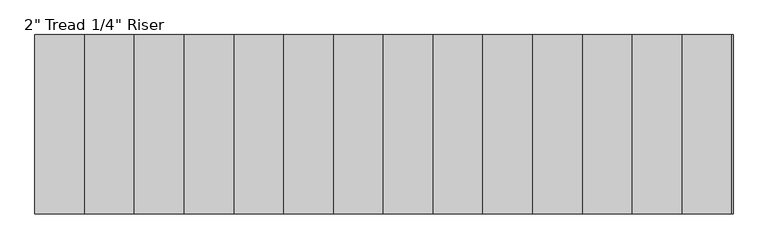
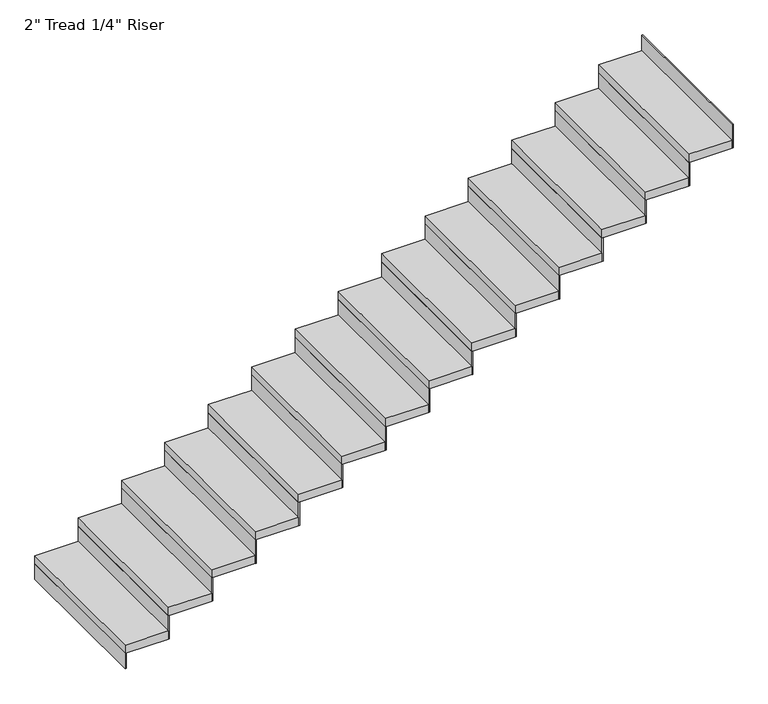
"""IFC4 building model written with IfcOpenShell, lengths in millimetres: stair flight geometry."""

from ifc_helpers import new_model, si_unit, frame, origin, origin_with_axes, place, context, project, spatial, polyline, outline, extrude, source, transform, mapped, element, save


def stair_flight_3032ab9d(model_context):
    return source(origin(), model_context, "Body", "SweptSolid", [
        extrude(outline(polyline([(157852.476153, 32314.0539886), (157846.126153, 32314.0539886), (157846.126153, 33228.4539886), (157852.476153, 33228.4539886), (157852.476153, 32314.0539886)])), origin_with_axes(), (0.0, 0.0, 1.0), 94.3428571),
        extrude(outline(polyline([(158100.126153, 33228.4539886), (158100.126153, 32314.0539886), (157846.126153, 32314.0539886), (157846.126153, 33228.4539886), (158100.126153, 33228.4539886)])), frame((0.0, 0.0, 94.3428571), z_axis=(0.0, 0.0, 1.0), x_axis=(1.0, 0.0, 0.0)), (0.0, 0.0, 1.0), 50.8),
        extrude(outline(polyline([(158106.476153, 32314.0539886), (158100.126153, 32314.0539886), (158100.126153, 33228.4539886), (158106.476153, 33228.4539886), (158106.476153, 32314.0539886)])), frame((0.0, 0.0, 94.3428571), z_axis=(0.0, 0.0, 1.0), x_axis=(1.0, 0.0, 0.0)), (0.0, 0.0, 1.0), 145.1428571),
        extrude(outline(polyline([(158354.126153, 33228.4539886), (158354.126153, 32314.0539886), (158100.126153, 32314.0539886), (158100.126153, 33228.4539886), (158354.126153, 33228.4539886)])), frame((0.0, 0.0, 239.4857143), z_axis=(0.0, 0.0, 1.0), x_axis=(1.0, 0.0, 0.0)), (0.0, 0.0, 1.0), 50.8),
        extrude(outline(polyline([(158360.476153, 32314.0539886), (158354.126153, 32314.0539886), (158354.126153, 33228.4539886), (158360.476153, 33228.4539886), (158360.476153, 32314.0539886)])), frame((0.0, 0.0, 239.4857143), z_axis=(0.0, 0.0, 1.0), x_axis=(1.0, 0.0, 0.0)), (0.0, 0.0, 1.0), 145.1428571),
        extrude(outline(polyline([(158608.126153, 33228.4539886), (158608.126153, 32314.0539886), (158354.126153, 32314.0539886), (158354.126153, 33228.4539886), (158608.126153, 33228.4539886)])), frame((0.0, 0.0, 384.6285714), z_axis=(0.0, 0.0, 1.0), x_axis=(1.0, 0.0, 0.0)), (0.0, 0.0, 1.0), 50.8),
        extrude(outline(polyline([(158614.476153, 32314.0539886), (158608.126153, 32314.0539886), (158608.126153, 33228.4539886), (158614.476153, 33228.4539886), (158614.476153, 32314.0539886)])), frame((0.0, 0.0, 384.6285714), z_axis=(0.0, 0.0, 1.0), x_axis=(1.0, 0.0, 0.0)), (0.0, 0.0, 1.0), 145.1428571),
        extrude(outline(polyline([(158862.126153, 33228.4539886), (158862.126153, 32314.0539886), (158608.126153, 32314.0539886), (158608.126153, 33228.4539886), (158862.126153, 33228.4539886)])), frame((0.0, 0.0, 529.7714286), z_axis=(0.0, 0.0, 1.0), x_axis=(1.0, 0.0, 0.0)), (0.0, 0.0, 1.0), 50.8),
        extrude(outline(polyline([(158868.476153, 32314.0539886), (158862.126153, 32314.0539886), (158862.126153, 33228.4539886), (158868.476153, 33228.4539886), (158868.476153, 32314.0539886)])), frame((0.0, 0.0, 529.7714286), z_axis=(0.0, 0.0, 1.0), x_axis=(1.0, 0.0, 0.0)), (0.0, 0.0, 1.0), 145.1428571),
        extrude(outline(polyline([(159116.126153, 33228.4539886), (159116.126153, 32314.0539886), (158862.126153, 32314.0539886), (158862.126153, 33228.4539886), (159116.126153, 33228.4539886)])), frame((0.0, 0.0, 674.9142857), z_axis=(0.0, 0.0, 1.0), x_axis=(1.0, 0.0, 0.0)), (0.0, 0.0, 1.0), 50.8),
        extrude(outline(polyline([(159122.476153, 32314.0539886), (159116.126153, 32314.0539886), (159116.126153, 33228.4539886), (159122.476153, 33228.4539886), (159122.476153, 32314.0539886)])), frame((0.0, 0.0, 674.9142857), z_axis=(0.0, 0.0, 1.0), x_axis=(1.0, 0.0, 0.0)), (0.0, 0.0, 1.0), 145.1428571),
        extrude(outline(polyline([(159370.126153, 33228.4539886), (159370.126153, 32314.0539886), (159116.126153, 32314.0539886), (159116.126153, 33228.4539886), (159370.126153, 33228.4539886)])), frame((0.0, 0.0, 820.0571429), z_axis=(0.0, 0.0, 1.0), x_axis=(1.0, 0.0, 0.0)), (0.0, 0.0, 1.0), 50.8),
        extrude(outline(polyline([(159376.476153, 32314.0539886), (159370.126153, 32314.0539886), (159370.126153, 33228.4539886), (159376.476153, 33228.4539886), (159376.476153, 32314.0539886)])), frame((0.0, 0.0, 820.0571429), z_axis=(0.0, 0.0, 1.0), x_axis=(1.0, 0.0, 0.0)), (0.0, 0.0, 1.0), 145.1428571),
        extrude(outline(polyline([(159624.126153, 33228.4539886), (159624.126153, 32314.0539886), (159370.126153, 32314.0539886), (159370.126153, 33228.4539886), (159624.126153, 33228.4539886)])), frame((0.0, 0.0, 965.2), z_axis=(0.0, 0.0, 1.0), x_axis=(1.0, 0.0, 0.0)), (0.0, 0.0, 1.0), 50.8),
        extrude(outline(polyline([(159630.476153, 32314.0539886), (159624.126153, 32314.0539886), (159624.126153, 33228.4539886), (159630.476153, 33228.4539886), (159630.476153, 32314.0539886)])), frame((0.0, 0.0, 965.2), z_axis=(0.0, 0.0, 1.0), x_axis=(1.0, 0.0, 0.0)), (0.0, 0.0, 1.0), 145.1428571),
        extrude(outline(polyline([(159878.126153, 33228.4539886), (159878.126153, 32314.0539886), (159624.126153, 32314.0539886), (159624.126153, 33228.4539886), (159878.126153, 33228.4539886)])), frame((0.0, 0.0, 1110.3428571), z_axis=(0.0, 0.0, 1.0), x_axis=(1.0, 0.0, 0.0)), (0.0, 0.0, 1.0), 50.8),
        extrude(outline(polyline([(159884.476153, 32314.0539886), (159878.126153, 32314.0539886), (159878.126153, 33228.4539886), (159884.476153, 33228.4539886), (159884.476153, 32314.0539886)])), frame((0.0, 0.0, 1110.3428571), z_axis=(0.0, 0.0, 1.0), x_axis=(1.0, 0.0, 0.0)), (0.0, 0.0, 1.0), 145.1428571),
        extrude(outline(polyline([(160132.126153, 33228.4539886), (160132.126153, 32314.0539886), (159878.126153, 32314.0539886), (159878.126153, 33228.4539886), (160132.126153, 33228.4539886)])), frame((0.0, 0.0, 1255.4857143), z_axis=(0.0, 0.0, 1.0), x_axis=(1.0, 0.0, 0.0)), (0.0, 0.0, 1.0), 50.8),
        extrude(outline(polyline([(160138.476153, 32314.0539886), (160132.126153, 32314.0539886), (160132.126153, 33228.4539886), (160138.476153, 33228.4539886), (160138.476153, 32314.0539886)])), frame((0.0, 0.0, 1255.4857143), z_axis=(0.0, 0.0, 1.0), x_axis=(1.0, 0.0, 0.0)), (0.0, 0.0, 1.0), 145.1428571),
        extrude(outline(polyline([(160386.126153, 33228.4539886), (160386.126153, 32314.0539886), (160132.126153, 32314.0539886), (160132.126153, 33228.4539886), (160386.126153, 33228.4539886)])), frame((0.0, 0.0, 1400.6285714), z_axis=(0.0, 0.0, 1.0), x_axis=(1.0, 0.0, 0.0)), (0.0, 0.0, 1.0), 50.8),
        extrude(outline(polyline([(160392.476153, 32314.0539886), (160386.126153, 32314.0539886), (160386.126153, 33228.4539886), (160392.476153, 33228.4539886), (160392.476153, 32314.0539886)])), frame((0.0, 0.0, 1400.6285714), z_axis=(0.0, 0.0, 1.0), x_axis=(1.0, 0.0, 0.0)), (0.0, 0.0, 1.0), 145.1428571),
        extrude(outline(polyline([(160640.126153, 33228.4539886), (160640.126153, 32314.0539886), (160386.126153, 32314.0539886), (160386.126153, 33228.4539886), (160640.126153, 33228.4539886)])), frame((0.0, 0.0, 1545.7714286), z_axis=(0.0, 0.0, 1.0), x_axis=(1.0, 0.0, 0.0)), (0.0, 0.0, 1.0), 50.8),
        extrude(outline(polyline([(160646.476153, 32314.0539886), (160640.126153, 32314.0539886), (160640.126153, 33228.4539886), (160646.476153, 33228.4539886), (160646.476153, 32314.0539886)])), frame((0.0, 0.0, 1545.7714286), z_axis=(0.0, 0.0, 1.0), x_axis=(1.0, 0.0, 0.0)), (0.0, 0.0, 1.0), 145.1428571),
        extrude(outline(polyline([(160894.126153, 33228.4539886), (160894.126153, 32314.0539886), (160640.126153, 32314.0539886), (160640.126153, 33228.4539886), (160894.126153, 33228.4539886)])), frame((0.0, 0.0, 1690.9142857), z_axis=(0.0, 0.0, 1.0), x_axis=(1.0, 0.0, 0.0)), (0.0, 0.0, 1.0), 50.8),
        extrude(outline(polyline([(160900.476153, 32314.0539886), (160894.126153, 32314.0539886), (160894.126153, 33228.4539886), (160900.476153, 33228.4539886), (160900.476153, 32314.0539886)])), frame((0.0, 0.0, 1690.9142857), z_axis=(0.0, 0.0, 1.0), x_axis=(1.0, 0.0, 0.0)), (0.0, 0.0, 1.0), 145.1428571),
        extrude(outline(polyline([(161148.126153, 33228.4539886), (161148.126153, 32314.0539886), (160894.126153, 32314.0539886), (160894.126153, 33228.4539886), (161148.126153, 33228.4539886)])), frame((0.0, 0.0, 1836.0571429), z_axis=(0.0, 0.0, 1.0), x_axis=(1.0, 0.0, 0.0)), (0.0, 0.0, 1.0), 50.8),
        extrude(outline(polyline([(161154.476153, 32314.0539886), (161148.126153, 32314.0539886), (161148.126153, 33228.4539886), (161154.476153, 33228.4539886), (161154.476153, 32314.0539886)])), frame((0.0, 0.0, 1836.0571429), z_axis=(0.0, 0.0, 1.0), x_axis=(1.0, 0.0, 0.0)), (0.0, 0.0, 1.0), 145.1428571),
        extrude(outline(polyline([(161408.476153, 32314.0539886), (161402.126153, 32314.0539886), (161402.126153, 33228.4539886), (161408.476153, 33228.4539886), (161408.476153, 32314.0539886)])), frame((0.0, 0.0, 1981.2), z_axis=(0.0, 0.0, 1.0), x_axis=(1.0, 0.0, 0.0)), (0.0, 0.0, 1.0), 145.1428571),
        extrude(outline(polyline([(161402.126153, 33228.4539886), (161402.126153, 32314.0539886), (161148.126153, 32314.0539886), (161148.126153, 33228.4539886), (161402.126153, 33228.4539886)])), frame((0.0, 0.0, 1981.2), z_axis=(0.0, 0.0, 1.0), x_axis=(1.0, 0.0, 0.0)), (0.0, 0.0, 1.0), 50.8),
    ])


if __name__ == "__main__":
    model = new_model("IFC4")
    model_context = context("Model", 3, world=origin())
    ifc_project = project(units=[si_unit("LENGTHUNIT", "METRE", prefix="MILLI")], contexts=[model_context])
    site = spatial("IfcSite", under=ifc_project)
    building = spatial("IfcBuilding", under=site)
    placement = place(None, origin())
    stair_flight_shape = stair_flight_3032ab9d(model_context)
    element("IfcStairFlight", 1, ObjectType="2\" Tread 1/4\" Riser", at=placement, inside=building, context=model_context, shape_type="MappedRepresentation", body=[
        mapped(stair_flight_shape, transform((0.0, 0.0, 0.0), x_axis=(1.0, 0.0, 0.0), y_axis=(0.0, 1.0, 0.0), z_axis=(0.0, 0.0, 1.0))),
    ])
    save(model, "model.ifc")
